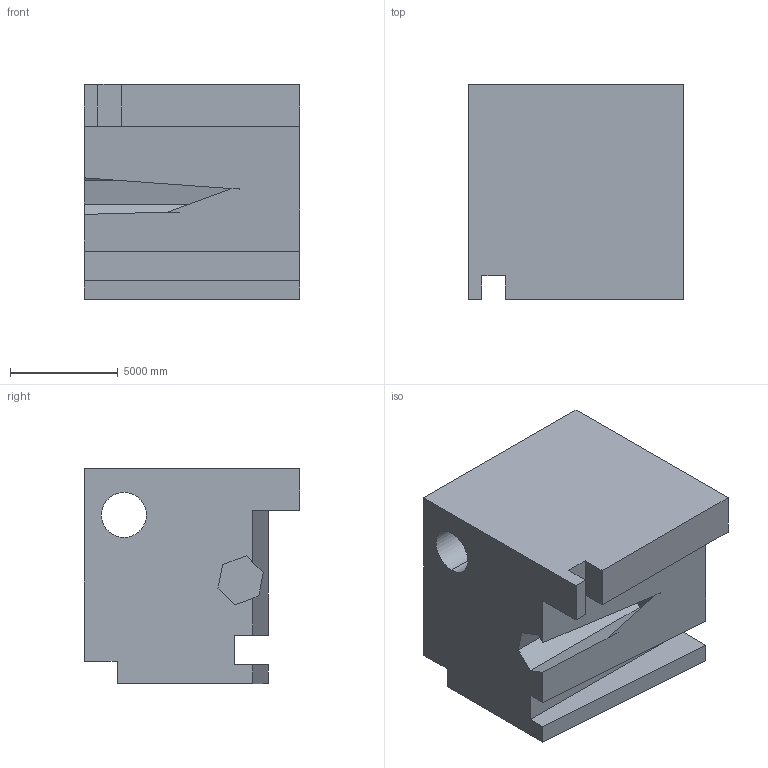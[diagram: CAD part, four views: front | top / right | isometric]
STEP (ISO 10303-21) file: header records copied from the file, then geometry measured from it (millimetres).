
FILE_DESCRIPTION (( 'STEP AP203' ), '1' );
FILE_NAME ('762.STEP', '2022-07-29T13:01:51', ( 'user' ), ( '' ), 'SwSTEP 2.0', 'SolidWorks 2021', '' );
FILE_SCHEMA (( 'CONFIG_CONTROL_DESIGN' ));
Length unit declared in the file: centimetre
Products named in the file (1): 762
Bounding box: 10000 x 10000 x 10000 mm (x, y, z)
Volume: 745773958770.3 mm3; surface area: 710508144.6 mm2
Topology: 1 solids, 1 shells, 38 faces, 104 edges, 69 vertices
Faces by surface type: plane 33, cylinder 5
Entity records: 1271 total; most frequent: CARTESIAN_POINT 212, ORIENTED_EDGE 208, DIRECTION 192, EDGE_CURVE 104, VECTOR 94, LINE 94, VERTEX_POINT 69, AXIS2_PLACEMENT_3D 49
